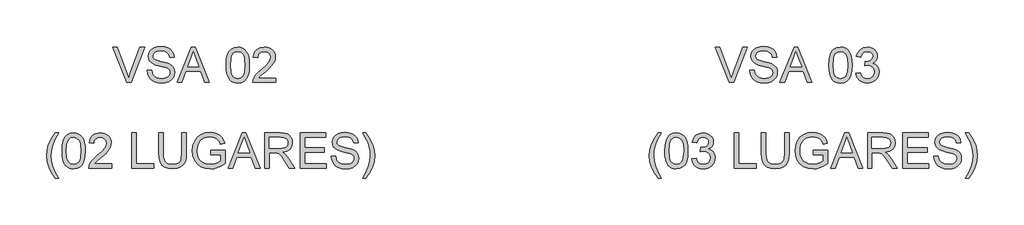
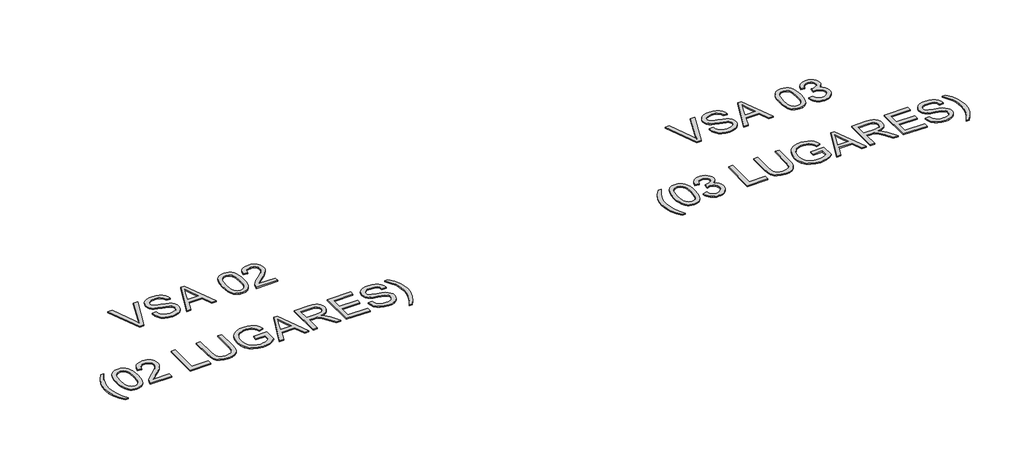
# One storey, part 2 of 4: 2 proxies.
"""IFC4 building model written with IfcOpenShell, lengths in millimetres."""

from ifc_helpers import new_model, si_unit, origin, origin_with_axes, place, context, project, spatial, polyline, outline, extrude, element, save

model = new_model("IFC4")

# Units and contexts
model_context = context("Model", 3, world=origin())
ifc_project = project(units=[si_unit("LENGTHUNIT", "METRE", prefix="MILLI")], contexts=[model_context])

# Site, building, storey
site = spatial("IfcSite", under=ifc_project)
building = spatial("IfcBuilding", under=site)
storey = spatial("IfcBuildingStorey", under=building, Name="Marelli - Linha VIGORE - Planta Baixa", Elevation=0.0)

# Proxies
placement = place(None, origin())
element("IfcBuildingElementProxy", 1, Name="300mm Arial", ObjectType="300mm Arial", at=placement, inside=storey, context=model_context, shape_type="SweptSolid", body=[
    extrude(outline(polyline([(-11531.7460813, 10085.3581335), (-11651.6756117, 10386.7270639), (-11611.3557451, 10386.7270639), (-11531.0838937, 10169.6031104), (-11514.8235095, 10120.674805), (-11498.7838545, 10169.6031104), (-11418.291274, 10386.7270639), (-11377.9714073, 10386.7270639), (-11492.8241662, 10085.3581335), (-11531.7460813, 10085.3581335)])), origin_with_axes(), (0.0, 0.0, 1.0), 10.0),
    extrude(outline(polyline([(-11357.07571, 10188.9537033), (-11319.4045937, 10188.9537033), (-11315.0819803, 10168.0488089), (-11307.2644879, 10151.2457988), (-11295.0691997, 10137.9100765), (-11277.613199, 10127.4070455), (-11256.2760433, 10120.5920316), (-11232.43729, 10118.3203602), (-11211.4496222, 10120.0402086), (-11193.0739166, 10125.1997535), (-11178.1838928, 10133.3667338), (-11167.6532707, 10144.1088881), (-11161.3900797, 10156.442132), (-11159.3023494, 10169.3823812), (-11160.8658479, 10181.9915366), (-11165.5563433, 10192.8900407), (-11175.084487, 10202.1882581), (-11191.1609302, 10209.9965534), (-11246.0121357, 10224.3807394), (-11282.0185859, 10233.8996861), (-11305.0571959, 10242.9587802), (-11323.8099806, 10255.6323149), (-11337.0997177, 10270.9913882), (-11345.0183776, 10288.7049063), (-11347.6579309, 10308.4417753), (-11344.3929782, 10330.505498), (-11334.5981201, 10351.0792986), (-11318.530874, 10368.5169052), (-11296.4487572, 10381.1720458), (-11269.9428594, 10388.8699765), (-11240.6042703, 10391.4359535), (-11208.819266, 10388.7504149), (-11181.0073871, 10380.6937992), (-11158.1619152, 10367.4316533), (-11141.2761316, 10349.129524), (-11130.5891597, 10326.9278456), (-11126.3401226, 10301.9670522), (-11164.0112389, 10301.9670522), (-11170.9274204, 10324.4446421), (-11185.3483947, 10340.6682381), (-11207.8811669, 10350.4906874), (-11239.1327424, 10353.7648371), (-11271.1200818, 10350.5274756), (-11293.0642428, 10340.8153909), (-11305.7561717, 10326.5231754), (-11309.9868146, 10309.5454213), (-11306.9885764, 10295.0692648), (-11297.9938616, 10283.4257997), (-11276.7302823, 10273.0147392), (-11236.483992, 10262.3829495), (-11194.9501147, 10252.2845888), (-11169.8237745, 10243.473815), (-11148.348663, 10229.8069989), (-11133.3666687, 10212.9396094), (-11124.565092, 10193.0555876), (-11121.6312331, 10170.3388744), (-11125.0065504, 10147.1163234), (-11135.1325023, 10125.2733299), (-11151.5952216, 10106.47456), (-11173.980841, 10092.3846796), (-11200.900606, 10083.5831028), (-11230.9657621, 10080.6492439), (-11267.8735232, 10083.8130291), (-11298.251379, 10093.3043846), (-11322.4488172, 10109.1600986), (-11340.8153258, 10131.4169593), (-11352.6059438, 10158.5298623), (-11357.07571, 10188.9537033)])), origin_with_axes(), (0.0, 0.0, 1.0), 10.0),
    extrude(outline(polyline([(-11100.220501, 10085.3581335), (-10979.9230886, 10386.7270639), (-10947.8437786, 10386.7270639), (-10827.5463661, 10085.3581335), (-10867.351198, 10085.3581335), (-10901.8585292, 10179.5359242), (-11025.9819143, 10179.5359242), (-11060.4156691, 10085.3581335), (-11100.220501, 10085.3581335)]), holes=[polyline([(-11012.1495513, 10217.2070405), (-10915.6173158, 10217.2070405), (-10942.767007, 10291.2984744), (-10963.8834336, 10349.0559476), (-10982.6454153, 10297.7731975), (-11012.1495513, 10217.2070405)])]), origin_with_axes(), (0.0, 0.0, 1.0), 10.0),
    extrude(outline(polyline([(-10683.704506, 10233.6145775), (-10680.936194, 10281.8531041), (-10672.631258, 10320.3243638), (-10658.8724714, 10349.6169677), (-10639.7426076, 10370.3195269), (-10615.103711, 10382.6251797), (-10584.8178257, 10386.7270639), (-10561.6044718, 10384.2990427), (-10540.8191391, 10377.0149792), (-10523.4367148, 10365.1599819), (-10510.4320863, 10349.0191594), (-10500.609637, 10328.7304674), (-10492.7737505, 10304.4318616), (-10487.6417967, 10273.5757592), (-10485.9311454, 10233.6145775), (-10488.6718663, 10185.6519624), (-10496.8940289, 10147.2726733), (-10510.5700421, 10117.9524782), (-10529.6723147, 10097.1671455), (-10554.3663936, 10084.7787193), (-10584.8178257, 10080.6492439), (-10605.5663703, 10082.4426687), (-10623.96047, 10087.8229428), (-10640.000125, 10096.7900665), (-10653.6853352, 10109.3440396), (-10666.8187225, 10132.0377601), (-10676.1997133, 10160.31409), (-10681.8283079, 10194.1730291), (-10683.704506, 10233.6145775)]), holes=[polyline([(-10646.0333897, 10233.6881539), (-10641.6188058, 10174.4315615), (-10636.1005759, 10154.1635629), (-10628.375054, 10140.1357625), (-10608.656579, 10123.7742108), (-10584.8178257, 10118.3203602), (-10560.9790724, 10123.7926049), (-10541.2605975, 10140.2093389), (-10533.5350756, 10154.2601319), (-10528.0168457, 10174.523532), (-10523.6022617, 10233.6881539), (-10527.8696929, 10291.6111741), (-10533.2039818, 10311.8124941), (-10540.6719863, 10326.1736875), (-10560.3536731, 10343.3353826), (-10585.2592841, 10349.0559476), (-10608.84052, 10344.0159643), (-10627.7864428, 10328.8960143), (-10635.7694821, 10313.2610295), (-10641.471653, 10292.1813912), (-10646.0333897, 10233.6881539)])]), origin_with_axes(), (0.0, 0.0, 1.0), 10.0),
    extrude(outline(polyline([(-10259.9044476, 10123.0292498), (-10259.9044476, 10085.3581335), (-10457.6778082, 10085.3581335), (-10453.6311063, 10111.3306023), (-10444.3420859, 10131.6284914), (-10430.7488462, 10151.3193752), (-10411.0855535, 10171.929964), (-10383.5863744, 10194.986968), (-10342.9354139, 10231.0945859), (-10318.5448376, 10257.7476364), (-10306.3495495, 10279.3790977), (-10302.2844534, 10300.4219478), (-10306.1196232, 10319.2850972), (-10317.6251326, 10334.9660672), (-10335.3110596, 10345.5334775), (-10357.6874819, 10349.0559476), (-10381.1859444, 10345.616251), (-10399.4420884, 10335.297161), (-10411.2235093, 10318.9080181), (-10415.2978024, 10297.2581627), (-10452.9689187, 10301.9670522), (-10443.8362481, 10338.4057639), (-10435.2898895, 10352.9417012), (-10424.090182, 10365.0220262), (-10410.4946431, 10374.5179802), (-10394.76079, 10381.3008045), (-10356.8781415, 10386.7270639), (-10336.6883178, 10385.2187477), (-10318.7195816, 10380.6937992), (-10302.9719329, 10373.1522183), (-10289.4453718, 10362.594005), (-10278.5813566, 10349.8009087), (-10270.8213458, 10335.5546784), (-10266.1653393, 10319.8553142), (-10264.6133371, 10302.7028162), (-10266.2872002, 10284.6857955), (-10271.3087894, 10266.9814745), (-10280.2207308, 10248.9736508), (-10293.5656502, 10230.0461222), (-10314.8384265, 10207.4489706), (-10347.5339388, 10178.4322782), (-10390.8704379, 10142.1959017), (-10407.8665861, 10123.0292498), (-10259.9044476, 10123.0292498)])), origin_with_axes(), (0.0, 0.0, 1.0), 10.0),
    extrude(outline(polyline([(-12138.7513734, 9268.7492147), (-12167.9428097, 9309.7128749), (-12192.2414155, 9357.1144699), (-12208.6305583, 9408.6547375), (-12214.093606, 9462.034415), (-12210.0101158, 9508.8473989), (-12197.7596454, 9553.6370318), (-12173.4426455, 9604.3679589), (-12138.7513734, 9654.8781568), (-12110.4980361, 9654.8781568), (-12145.7411313, 9595.2076972), (-12166.9311342, 9537.3766476), (-12174.0496508, 9499.6871372), (-12176.4224897, 9461.8136858), (-12172.3022113, 9413.5199769), (-12159.9413763, 9365.244662), (-12139.3399846, 9316.9877413), (-12110.4980361, 9268.7492147), (-12138.7513734, 9268.7492147)])), origin_with_axes(), (0.0, 0.0, 1.0), 10.0),
    extrude(outline(polyline([(-12082.2446989, 9501.7656705), (-12079.4763869, 9550.0041971), (-12071.1714508, 9588.4754567), (-12057.4126642, 9617.7680606), (-12038.2828005, 9638.4706199), (-12013.6439038, 9650.7762726), (-11983.3580186, 9654.8781568), (-11960.1446647, 9652.4501357), (-11939.359332, 9645.1660722), (-11921.9769077, 9633.3110749), (-11908.9722792, 9617.1702523), (-11899.1498299, 9596.8815603), (-11891.3139434, 9572.5829545), (-11886.1819896, 9541.7268522), (-11884.4713383, 9501.7656705), (-11887.2120592, 9453.8030553), (-11895.4342217, 9415.4237662), (-11909.1102349, 9386.1035712), (-11928.2125075, 9365.3182384), (-11952.9065864, 9352.9298123), (-11983.3580186, 9348.8003369), (-12004.1065631, 9350.5937616), (-12022.5006629, 9355.9740358), (-12038.5403179, 9364.9411594), (-12052.2255281, 9377.4951325), (-12065.3589153, 9400.1888531), (-12074.7399062, 9428.4651829), (-12080.3685007, 9462.324122), (-12082.2446989, 9501.7656705)]), holes=[polyline([(-12044.5735826, 9501.8392469), (-12040.1589987, 9442.5826545), (-12034.6407687, 9422.3146558), (-12026.9152468, 9408.2868555), (-12007.1967719, 9391.9253037), (-11983.3580186, 9386.4714532), (-11959.5192653, 9391.9436978), (-11939.8007904, 9408.3604319), (-11932.0752685, 9422.4112248), (-11926.5570385, 9442.674625), (-11922.1424546, 9501.8392469), (-11926.4098857, 9559.762267), (-11931.7441747, 9579.9635871), (-11939.2121792, 9594.3247804), (-11958.8938659, 9611.4864755), (-11983.799477, 9617.2070405), (-12007.3807129, 9612.1670572), (-12026.3266356, 9597.0471072), (-12034.3096749, 9581.4121224), (-12040.0118459, 9560.3324841), (-12044.5735826, 9501.8392469)])]), origin_with_axes(), (0.0, 0.0, 1.0), 10.0),
    extrude(outline(polyline([(-11658.4446405, 9391.1803427), (-11658.4446405, 9353.5092264), (-11856.2180011, 9353.5092264), (-11852.1712991, 9379.4816953), (-11842.8822787, 9399.7795843), (-11829.289039, 9419.4704681), (-11809.6257464, 9440.0810569), (-11782.1265672, 9463.138061), (-11741.4756068, 9499.2456788), (-11717.0850305, 9525.8987293), (-11704.8897423, 9547.5301907), (-11700.8246463, 9568.5730408), (-11704.6598161, 9587.4361901), (-11716.1653255, 9603.1171601), (-11733.8512524, 9613.6845704), (-11756.2276748, 9617.2070405), (-11779.7261372, 9613.7673439), (-11797.9822812, 9603.4482539), (-11809.7637021, 9587.059111), (-11813.8379952, 9565.4092556), (-11851.5091115, 9570.1181452), (-11842.376441, 9606.5568568), (-11833.8300824, 9621.0927941), (-11822.6303749, 9633.1731191), (-11809.0348359, 9642.6690731), (-11793.3009828, 9649.4518974), (-11755.4183344, 9654.8781568), (-11735.2285106, 9653.3698407), (-11717.2597744, 9648.8448921), (-11701.5121258, 9641.3033112), (-11687.9855647, 9630.745098), (-11677.1215495, 9617.9520016), (-11669.3615387, 9603.7057713), (-11664.7055322, 9588.0064072), (-11663.15353, 9570.8539091), (-11664.8273931, 9552.8368884), (-11669.8489823, 9535.1325674), (-11678.7609236, 9517.1247438), (-11692.105843, 9498.1972151), (-11713.3786194, 9475.6000635), (-11746.0741317, 9446.5833712), (-11789.4106307, 9410.3469947), (-11806.4067789, 9391.1803427), (-11658.4446405, 9391.1803427)])), origin_with_axes(), (0.0, 0.0, 1.0), 10.0),
    extrude(outline(polyline([(-11488.9246171, 9353.5092264), (-11488.9246171, 9654.8781568), (-11451.2535008, 9654.8781568), (-11451.2535008, 9391.1803427), (-11300.5690355, 9391.1803427), (-11300.5690355, 9353.5092264), (-11488.9246171, 9353.5092264)])), origin_with_axes(), (0.0, 0.0, 1.0), 10.0),
    extrude(outline(polyline([(-11060.4156691, 9654.8781568), (-11022.7445528, 9654.8781568), (-11022.7445528, 9481.0171259), (-11025.3013327, 9440.3017861), (-11032.9716723, 9408.9490431), (-11047.300676, 9384.7608019), (-11069.8334482, 9365.5389676), (-11100.6251712, 9352.9849946), (-11139.7310273, 9348.8003369), (-11177.9815577, 9352.4423686), (-11208.5617486, 9363.3684639), (-11231.4807969, 9381.2015436), (-11246.7478997, 9405.5645287), (-11255.3287472, 9438.2416469), (-11258.1890297, 9481.0171259), (-11258.1890297, 9654.8781568), (-11220.5179134, 9654.8781568), (-11220.5179134, 9482.3415011), (-11218.6601093, 9448.4871605), (-11213.0866971, 9424.9151217), (-11202.9883363, 9408.5903581), (-11187.5556866, 9396.4778434), (-11167.4325415, 9388.9730507), (-11143.2626944, 9386.4714532), (-11104.9477846, 9391.419466), (-11090.6049853, 9397.604482), (-11079.4719564, 9406.2635045), (-11071.1348307, 9418.4403985), (-11065.1797409, 9435.1790293), (-11060.4156691, 9482.3415011), (-11060.4156691, 9654.8781568)])), origin_with_axes(), (0.0, 0.0, 1.0), 10.0),
    extrude(outline(polyline([(-10815.5534131, 9471.2314649), (-10815.5534131, 9508.9025812), (-10693.1222851, 9508.9025812), (-10693.1222851, 9396.2571142), (-10722.8747415, 9375.563752), (-10753.5652969, 9360.7197135), (-10785.1203751, 9351.780181), (-10817.4663995, 9348.8003369), (-10859.7268437, 9353.5368175), (-10897.9221918, 9367.7462596), (-10929.6520139, 9390.9320224), (-10952.5158799, 9422.5974651), (-10966.3390459, 9460.5812811), (-10970.9467679, 9502.7221636), (-10966.35744, 9545.1665488), (-10952.5894563, 9584.649484), (-10930.213034, 9617.7680606), (-10899.79839, 9641.1193702), (-10862.7526731, 9654.9701273), (-10820.4830318, 9659.5870464), (-10789.4521855, 9656.9107049), (-10761.5483362, 9648.8816803), (-10738.0498738, 9636.0793869), (-10720.2351882, 9619.0832387), (-10707.0558157, 9597.0746984), (-10697.4632927, 9569.2352284), (-10732.191353, 9559.4495673), (-10739.944466, 9579.305998), (-10749.3714422, 9594.2879922), (-10761.8426418, 9605.5819695), (-10778.7284254, 9614.3743492), (-10798.8607676, 9620.0305349), (-10821.071643, 9621.9159301), (-10847.071703, 9619.8833821), (-10869.3009726, 9613.785738), (-10887.6766783, 9604.386353), (-10902.1160466, 9592.4485823), (-10921.5034277, 9563.4226928), (-10930.3325956, 9534.9854146), (-10933.2756516, 9504.267268), (-10929.7347874, 9468.2424236), (-10919.1121947, 9438.6003319), (-10901.7297705, 9415.5525249), (-10877.9094113, 9399.3105348), (-10850.0331531, 9389.6812236), (-10820.4830318, 9386.4714532), (-10794.3910013, 9388.8902773), (-10768.9427643, 9396.1467496), (-10746.8422535, 9406.1439429), (-10730.7934014, 9416.7849296), (-10730.7934014, 9471.2314649), (-10815.5534131, 9471.2314649)])), origin_with_axes(), (0.0, 0.0, 1.0), 10.0),
    extrude(outline(polyline([(-10667.0026635, 9353.5092264), (-10546.705251, 9654.8781568), (-10514.6259411, 9654.8781568), (-10394.3285286, 9353.5092264), (-10434.1333605, 9353.5092264), (-10468.6406917, 9447.6870172), (-10592.7640768, 9447.6870172), (-10627.1978316, 9353.5092264), (-10667.0026635, 9353.5092264)]), holes=[polyline([(-10578.9317138, 9485.3581335), (-10482.3994783, 9485.3581335), (-10509.5491695, 9559.4495673), (-10530.665596, 9617.2070405), (-10549.4275778, 9565.9242904), (-10578.9317138, 9485.3581335)])]), origin_with_axes(), (0.0, 0.0, 1.0), 10.0),
    extrude(outline(polyline([(-10354.0822384, 9353.5092264), (-10354.0822384, 9654.8781568), (-10224.2198941, 9654.8781568), (-10189.3170898, 9652.8456088), (-10163.9240351, 9646.7479648), (-10145.3643884, 9635.4907757), (-10130.9618083, 9617.9795927), (-10121.7187732, 9596.265358), (-10118.6377614, 9572.3990135), (-10123.7421241, 9542.7109365), (-10139.0552122, 9518.099631), (-10150.6549913, 9508.0702481), (-10165.0368781, 9500.0550192), (-10202.1469743, 9490.067023), (-10180.7362422, 9473.9537916), (-10150.2020366, 9435.1790293), (-10099.9493561, 9353.5092264), (-10143.7273135, 9353.5092264), (-10182.9435342, 9415.9755892), (-10211.2704478, 9457.3255254), (-10231.1728638, 9476.8600594), (-10249.0887169, 9484.0337583), (-10270.9409074, 9485.3581335), (-10316.4111221, 9485.3581335), (-10316.4111221, 9353.5092264), (-10354.0822384, 9353.5092264)]), holes=[polyline([(-10316.4111221, 9523.0292498), (-10232.0925688, 9523.0292498), (-10207.8767364, 9524.362822), (-10189.0871635, 9528.3635387), (-10174.9421008, 9535.2981143), (-10164.659799, 9545.4332633), (-10158.3966081, 9557.6929308), (-10156.3088778, 9571.0010619), (-10160.2912003, 9589.3767676), (-10172.2381681, 9604.1840179), (-10192.7935746, 9613.9512849), (-10222.6012133, 9617.2070405), (-10316.4111221, 9617.2070405), (-10316.4111221, 9523.0292498)])]), origin_with_axes(), (0.0, 0.0, 1.0), 10.0),
    extrude(outline(polyline([(-10052.7133079, 9353.5092264), (-10052.7133079, 9654.8781568), (-9836.1043891, 9654.8781568), (-9836.1043891, 9617.2070405), (-10015.0421916, 9617.2070405), (-10015.0421916, 9527.7381393), (-9845.5221682, 9527.7381393), (-9845.5221682, 9490.067023), (-10015.0421916, 9490.067023), (-10015.0421916, 9391.1803427), (-9831.3954996, 9391.1803427), (-9831.3954996, 9353.5092264), (-10052.7133079, 9353.5092264)])), origin_with_axes(), (0.0, 0.0, 1.0), 10.0),
    extrude(outline(polyline([(-9789.0154938, 9457.1047962), (-9751.3443775, 9457.1047962), (-9747.021764, 9436.1999019), (-9739.2042716, 9419.3968917), (-9727.0089835, 9406.0611694), (-9709.5529828, 9395.5581384), (-9688.2158271, 9388.7431245), (-9664.3770738, 9386.4714532), (-9643.389406, 9388.1913015), (-9625.0137003, 9393.3508465), (-9610.1236766, 9401.5178268), (-9599.5930544, 9412.259981), (-9593.3298635, 9424.5932249), (-9591.2421332, 9437.5334741), (-9592.8056316, 9450.1426295), (-9597.4961271, 9461.0411336), (-9607.0242708, 9470.339351), (-9623.1007139, 9478.1476464), (-9677.9519194, 9492.5318324), (-9713.9583697, 9502.050779), (-9736.9969796, 9511.1098731), (-9755.7497644, 9523.7834079), (-9769.0395014, 9539.1424812), (-9776.9581614, 9556.8559992), (-9779.5977147, 9576.5928683), (-9776.332762, 9598.6565909), (-9766.5379039, 9619.2303915), (-9750.4706577, 9636.6679981), (-9728.388541, 9649.3231387), (-9701.8826432, 9657.0210695), (-9672.5440541, 9659.5870464), (-9640.7590497, 9656.9015078), (-9612.9471709, 9648.8448921), (-9590.101699, 9635.5827462), (-9573.2159154, 9617.2806169), (-9562.5289434, 9595.0789385), (-9558.2799064, 9570.1181452), (-9595.9510227, 9570.1181452), (-9602.8672042, 9592.5957351), (-9617.2881784, 9608.819331), (-9639.8209506, 9618.6417803), (-9671.0725261, 9621.9159301), (-9703.0598656, 9618.6785685), (-9725.0040266, 9608.9664838), (-9737.6959554, 9594.6742683), (-9741.9265984, 9577.6965143), (-9738.9283601, 9563.2203577), (-9729.9336453, 9551.5768926), (-9708.670066, 9541.1658321), (-9668.4237757, 9530.5340425), (-9626.8898985, 9520.4356817), (-9601.7635582, 9511.6249079), (-9580.2884468, 9497.9580918), (-9565.3064525, 9481.0907023), (-9556.5048758, 9461.2066805), (-9553.5710169, 9438.4899673), (-9556.9463342, 9415.2674163), (-9567.0722861, 9393.4244229), (-9583.5350054, 9374.6256529), (-9605.9206248, 9360.5357725), (-9632.8403898, 9351.7341958), (-9662.9055458, 9348.8003369), (-9699.813307, 9351.964122), (-9730.1911627, 9361.4554775), (-9754.388601, 9377.3111915), (-9772.7551096, 9399.5680522), (-9784.5457275, 9426.6809552), (-9789.0154938, 9457.1047962)])), origin_with_axes(), (0.0, 0.0, 1.0), 10.0),
    extrude(outline(polyline([(-9492.3554529, 9268.7492147), (-9520.6087901, 9268.7492147), (-9491.7668417, 9316.9877413), (-9471.1654499, 9365.244662), (-9458.8046149, 9413.5199769), (-9454.6843365, 9461.8136858), (-9457.0571754, 9499.4112257), (-9464.175692, 9536.71446), (-9473.1704068, 9566.2737783), (-9485.1449657, 9594.619086), (-9520.6087901, 9654.8781568), (-9492.3554529, 9654.8781568), (-9457.6641807, 9604.3679589), (-9433.3471808, 9553.6370318), (-9421.0967104, 9508.8473989), (-9417.0132202, 9462.034415), (-9422.503859, 9408.6547375), (-9438.9757754, 9357.1144699), (-9463.3019723, 9309.7128749), (-9492.3554529, 9268.7492147)])), origin_with_axes(), (0.0, 0.0, 1.0), 10.0),
])
element("IfcBuildingElementProxy", 2, Name="300mm Arial", ObjectType="300mm Arial", at=placement, inside=storey, context=model_context, shape_type="SweptSolid", body=[
    extrude(outline(polyline([(-6395.1882847, 10085.3581335), (-6515.1178151, 10386.7270639), (-6474.7979485, 10386.7270639), (-6394.5260971, 10169.6031104), (-6378.2657129, 10120.674805), (-6362.2260579, 10169.6031104), (-6281.7334774, 10386.7270639), (-6241.4136107, 10386.7270639), (-6356.2663696, 10085.3581335), (-6395.1882847, 10085.3581335)])), origin_with_axes(), (0.0, 0.0, 1.0), 10.0),
    extrude(outline(polyline([(-6220.5179134, 10188.9537033), (-6182.8467971, 10188.9537033), (-6178.5241836, 10168.0488089), (-6170.7066913, 10151.2457988), (-6158.5114031, 10137.9100765), (-6141.0554024, 10127.4070455), (-6119.7182467, 10120.5920316), (-6095.8794934, 10118.3203602), (-6074.8918256, 10120.0402086), (-6056.5161199, 10125.1997535), (-6041.6260962, 10133.3667338), (-6031.0954741, 10144.1088881), (-6024.8322831, 10156.442132), (-6022.7445528, 10169.3823812), (-6024.3080513, 10181.9915366), (-6028.9985467, 10192.8900407), (-6038.5266904, 10202.1882581), (-6054.6031336, 10209.9965534), (-6109.4543391, 10224.3807394), (-6145.4607893, 10233.8996861), (-6168.4993993, 10242.9587802), (-6187.252184, 10255.6323149), (-6200.5419211, 10270.9913882), (-6208.460581, 10288.7049063), (-6211.1001343, 10308.4417753), (-6207.8351816, 10330.505498), (-6198.0403235, 10351.0792986), (-6181.9730774, 10368.5169052), (-6159.8909606, 10381.1720458), (-6133.3850628, 10388.8699765), (-6104.0464737, 10391.4359535), (-6072.2614693, 10388.7504149), (-6044.4495905, 10380.6937992), (-6021.6041186, 10367.4316533), (-6004.718335, 10349.129524), (-5994.0313631, 10326.9278456), (-5989.782326, 10301.9670522), (-6027.4534423, 10301.9670522), (-6034.3696238, 10324.4446421), (-6048.790598, 10340.6682381), (-6071.3233703, 10350.4906874), (-6102.5749457, 10353.7648371), (-6134.5622852, 10350.5274756), (-6156.5064462, 10340.8153909), (-6169.1983751, 10326.5231754), (-6173.429018, 10309.5454213), (-6170.4307798, 10295.0692648), (-6161.436065, 10283.4257997), (-6140.1724857, 10273.0147392), (-6099.9261954, 10262.3829495), (-6058.3923181, 10252.2845888), (-6033.2659779, 10243.473815), (-6011.7908664, 10229.8069989), (-5996.8088721, 10212.9396094), (-5988.0072954, 10193.0555876), (-5985.0734365, 10170.3388744), (-5988.4487538, 10147.1163234), (-5998.5747057, 10125.2733299), (-6015.037425, 10106.47456), (-6037.4230444, 10092.3846796), (-6064.3428094, 10083.5831028), (-6094.4079655, 10080.6492439), (-6131.3157266, 10083.8130291), (-6161.6935824, 10093.3043846), (-6185.8910206, 10109.1600986), (-6204.2575292, 10131.4169593), (-6216.0481472, 10158.5298623), (-6220.5179134, 10188.9537033)])), origin_with_axes(), (0.0, 0.0, 1.0), 10.0),
    extrude(outline(polyline([(-5963.6627044, 10085.3581335), (-5843.3652919, 10386.7270639), (-5811.285982, 10386.7270639), (-5690.9885695, 10085.3581335), (-5730.7934014, 10085.3581335), (-5765.3007326, 10179.5359242), (-5889.4241177, 10179.5359242), (-5923.8578725, 10085.3581335), (-5963.6627044, 10085.3581335)]), holes=[polyline([(-5875.5917547, 10217.2070405), (-5779.0595192, 10217.2070405), (-5806.2092104, 10291.2984744), (-5827.325637, 10349.0559476), (-5846.0876187, 10297.7731975), (-5875.5917547, 10217.2070405)])]), origin_with_axes(), (0.0, 0.0, 1.0), 10.0),
    extrude(outline(polyline([(-5547.1467094, 10233.6145775), (-5544.3783974, 10281.8531041), (-5536.0734614, 10320.3243638), (-5522.3146748, 10349.6169677), (-5503.184811, 10370.3195269), (-5478.5459144, 10382.6251797), (-5448.2600291, 10386.7270639), (-5425.0466752, 10384.2990427), (-5404.2613425, 10377.0149792), (-5386.8789182, 10365.1599819), (-5373.8742897, 10349.0191594), (-5364.0518404, 10328.7304674), (-5356.2159539, 10304.4318616), (-5351.0840001, 10273.5757592), (-5349.3733488, 10233.6145775), (-5352.1140697, 10185.6519624), (-5360.3362323, 10147.2726733), (-5374.0122454, 10117.9524782), (-5393.114518, 10097.1671455), (-5417.808597, 10084.7787193), (-5448.2600291, 10080.6492439), (-5469.0085737, 10082.4426687), (-5487.4026734, 10087.8229428), (-5503.4423284, 10096.7900665), (-5517.1275386, 10109.3440396), (-5530.2609258, 10132.0377601), (-5539.6419167, 10160.31409), (-5545.2705113, 10194.1730291), (-5547.1467094, 10233.6145775)]), holes=[polyline([(-5509.4755931, 10233.6881539), (-5505.0610092, 10174.4315615), (-5499.5427793, 10154.1635629), (-5491.8172574, 10140.1357625), (-5472.0987824, 10123.7742108), (-5448.2600291, 10118.3203602), (-5424.4212758, 10123.7926049), (-5404.7028009, 10140.2093389), (-5396.977279, 10154.2601319), (-5391.4590491, 10174.523532), (-5387.0444651, 10233.6881539), (-5391.3118963, 10291.6111741), (-5396.6461852, 10311.8124941), (-5404.1141897, 10326.1736875), (-5423.7958764, 10343.3353826), (-5448.7014875, 10349.0559476), (-5472.2827234, 10344.0159643), (-5491.2286462, 10328.8960143), (-5499.2116855, 10313.2610295), (-5504.9138564, 10292.1813912), (-5509.4755931, 10233.6881539)])]), origin_with_axes(), (0.0, 0.0, 1.0), 10.0),
    extrude(outline(polyline([(-5316.4111221, 10165.4092556), (-5278.7400057, 10170.1181452), (-5270.306311, 10146.4449388), (-5257.954673, 10130.4604661), (-5241.0780865, 10121.3553867), (-5219.0695461, 10118.3203602), (-5193.2442301, 10122.4958209), (-5173.3050259, 10135.0222028), (-5160.5579148, 10153.7106082), (-5156.3088778, 10176.3721391), (-5160.5211266, 10197.8840387), (-5173.1578731, 10215.3308424), (-5192.2877369, 10226.8915341), (-5215.9793374, 10230.745098), (-5242.3932646, 10226.6248196), (-5238.1994099, 10264.2959359), (-5232.1661452, 10263.8544775), (-5209.5965848, 10266.5584102), (-5189.4182573, 10274.6702082), (-5175.1812241, 10288.3922066), (-5170.4355464, 10307.9267405), (-5173.875243, 10324.1963218), (-5184.194333, 10337.3940884), (-5199.9396824, 10346.1404828), (-5219.6581573, 10349.0559476), (-5239.4134205, 10346.1128916), (-5255.56344, 10337.2837238), (-5267.354058, 10322.568444), (-5274.0311162, 10301.9670522), (-5311.7022325, 10306.6759418), (-5300.6105904, 10340.5026912), (-5280.8737213, 10365.7577902), (-5253.8711829, 10381.4847455), (-5220.9825325, 10386.7270639), (-5197.3001291, 10384.1426929), (-5175.5491061, 10376.3895799), (-5157.2101886, 10364.1575035), (-5143.7641017, 10348.1362426), (-5135.514348, 10329.6777635), (-5132.7644301, 10310.1340325), (-5135.3763922, 10291.9238738), (-5143.2122787, 10275.4059722), (-5156.161725, 10261.3344859), (-5174.1143663, 10250.4635729), (-5150.5331304, 10240.9354292), (-5133.0587357, 10224.7118332), (-5122.243005, 10202.6757017), (-5118.6377614, 10175.7099515), (-5120.4403832, 10156.5984818), (-5125.8482485, 10138.9953284), (-5134.8613574, 10122.9004911), (-5147.4797099, 10108.31397), (-5162.8525787, 10096.2106523), (-5180.1292369, 10087.5654254), (-5199.3096845, 10082.3782893), (-5220.3939213, 10080.6492439), (-5239.4502087, 10082.1253704), (-5256.8142388, 10086.55375), (-5272.4860118, 10093.9343825), (-5286.4655276, 10104.267268), (-5298.1871677, 10116.9454013), (-5307.0853135, 10131.361777), (-5313.1599649, 10147.5163951), (-5316.4111221, 10165.4092556)])), origin_with_axes(), (0.0, 0.0, 1.0), 10.0),
    extrude(outline(polyline([(-7002.1935767, 9268.7492147), (-7031.3850131, 9309.7128749), (-7055.6836188, 9357.1144699), (-7072.0727617, 9408.6547375), (-7077.5358094, 9462.034415), (-7073.4523192, 9508.8473989), (-7061.2018488, 9553.6370318), (-7036.8848489, 9604.3679589), (-7002.1935767, 9654.8781568), (-6973.9402395, 9654.8781568), (-7009.1833347, 9595.2076972), (-7030.3733376, 9537.3766476), (-7037.4918542, 9499.6871372), (-7039.8646931, 9461.8136858), (-7035.7444147, 9413.5199769), (-7023.3835797, 9365.244662), (-7002.7821879, 9316.9877413), (-6973.9402395, 9268.7492147), (-7002.1935767, 9268.7492147)])), origin_with_axes(), (0.0, 0.0, 1.0), 10.0),
    extrude(outline(polyline([(-6945.6869023, 9501.7656705), (-6942.9185903, 9550.0041971), (-6934.6136542, 9588.4754567), (-6920.8548676, 9617.7680606), (-6901.7250039, 9638.4706199), (-6877.0861072, 9650.7762726), (-6846.800222, 9654.8781568), (-6823.5868681, 9652.4501357), (-6802.8015354, 9645.1660722), (-6785.4191111, 9633.3110749), (-6772.4144826, 9617.1702523), (-6762.5920333, 9596.8815603), (-6754.7561468, 9572.5829545), (-6749.624193, 9541.7268522), (-6747.9135417, 9501.7656705), (-6750.6542625, 9453.8030553), (-6758.8764251, 9415.4237662), (-6772.5524383, 9386.1035712), (-6791.6547109, 9365.3182384), (-6816.3487898, 9352.9298123), (-6846.800222, 9348.8003369), (-6867.5487665, 9350.5937616), (-6885.9428663, 9355.9740358), (-6901.9825213, 9364.9411594), (-6915.6677315, 9377.4951325), (-6928.8011187, 9400.1888531), (-6938.1821096, 9428.4651829), (-6943.8107041, 9462.324122), (-6945.6869023, 9501.7656705)]), holes=[polyline([(-6908.015786, 9501.8392469), (-6903.601202, 9442.5826545), (-6898.0829721, 9422.3146558), (-6890.3574502, 9408.2868555), (-6870.6389753, 9391.9253037), (-6846.800222, 9386.4714532), (-6822.9614687, 9391.9436978), (-6803.2429938, 9408.3604319), (-6795.5174719, 9422.4112248), (-6789.9992419, 9442.674625), (-6785.584658, 9501.8392469), (-6789.8520891, 9559.762267), (-6795.1863781, 9579.9635871), (-6802.6543826, 9594.3247804), (-6822.3360693, 9611.4864755), (-6847.2416804, 9617.2070405), (-6870.8229163, 9612.1670572), (-6889.768839, 9597.0471072), (-6897.7518783, 9581.4121224), (-6903.4540492, 9560.3324841), (-6908.015786, 9501.8392469)])]), origin_with_axes(), (0.0, 0.0, 1.0), 10.0),
    extrude(outline(polyline([(-6714.9513149, 9433.5603485), (-6677.2801986, 9438.2692381), (-6668.8465039, 9414.5960317), (-6656.4948659, 9398.611559), (-6639.6182794, 9389.5064796), (-6617.609739, 9386.4714532), (-6591.7844229, 9390.6469138), (-6571.8452188, 9403.1732957), (-6559.0981077, 9421.8617011), (-6554.8490706, 9444.523232), (-6559.0613195, 9466.0351317), (-6571.698066, 9483.4819353), (-6590.8279297, 9495.042627), (-6614.5195302, 9498.8961909), (-6640.9334575, 9494.7759125), (-6636.7396027, 9532.4470289), (-6630.706338, 9532.0055705), (-6608.1367776, 9534.7095031), (-6587.9584502, 9542.8213011), (-6573.721417, 9556.5432995), (-6568.9757392, 9576.0778335), (-6572.4154359, 9592.3474147), (-6582.7345258, 9605.5451813), (-6598.4798752, 9614.2915757), (-6618.1983502, 9617.2070405), (-6637.9536133, 9614.2639846), (-6654.1036329, 9605.4348167), (-6665.8942509, 9590.7195369), (-6672.5713091, 9570.1181452), (-6710.2424254, 9574.8270347), (-6699.1507832, 9608.6537842), (-6679.4139142, 9633.9088831), (-6652.4113757, 9649.6358384), (-6619.5227254, 9654.8781568), (-6595.8403219, 9652.2937858), (-6574.089299, 9644.5406728), (-6555.7503815, 9632.3085964), (-6542.3042946, 9616.2873356), (-6534.0545408, 9597.8288564), (-6531.3046229, 9578.2851254), (-6533.9165851, 9560.0749667), (-6541.7524716, 9543.5570651), (-6554.7019178, 9529.4855788), (-6572.6545592, 9518.6146658), (-6549.0733233, 9509.0865222), (-6531.5989285, 9492.8629262), (-6520.7831979, 9470.8267947), (-6517.1779543, 9443.8610444), (-6518.9805761, 9424.7495748), (-6524.3884414, 9407.1464213), (-6533.4015503, 9391.051584), (-6546.0199027, 9376.4650629), (-6561.3927716, 9364.3617453), (-6578.6694298, 9355.7165184), (-6597.8498773, 9350.5293822), (-6618.9341142, 9348.8003369), (-6637.9904015, 9350.2764634), (-6655.3544317, 9354.7048429), (-6671.0262047, 9362.0854754), (-6685.0057205, 9372.4183609), (-6696.7273606, 9385.0964942), (-6705.6255063, 9399.5128699), (-6711.7001578, 9415.667488), (-6714.9513149, 9433.5603485)])), origin_with_axes(), (0.0, 0.0, 1.0), 10.0),
    extrude(outline(polyline([(-6352.3668205, 9353.5092264), (-6352.3668205, 9654.8781568), (-6314.6957042, 9654.8781568), (-6314.6957042, 9391.1803427), (-6164.0112389, 9391.1803427), (-6164.0112389, 9353.5092264), (-6352.3668205, 9353.5092264)])), origin_with_axes(), (0.0, 0.0, 1.0), 10.0),
    extrude(outline(polyline([(-5923.8578725, 9654.8781568), (-5886.1867562, 9654.8781568), (-5886.1867562, 9481.0171259), (-5888.743536, 9440.3017861), (-5896.4138756, 9408.9490431), (-5910.7428794, 9384.7608019), (-5933.2756516, 9365.5389676), (-5964.0673746, 9352.9849946), (-6003.1732306, 9348.8003369), (-6041.4237611, 9352.4423686), (-6072.0039519, 9363.3684639), (-6094.9230002, 9381.2015436), (-6110.190103, 9405.5645287), (-6118.7709506, 9438.2416469), (-6121.6312331, 9481.0171259), (-6121.6312331, 9654.8781568), (-6083.9601168, 9654.8781568), (-6083.9601168, 9482.3415011), (-6082.1023127, 9448.4871605), (-6076.5289005, 9424.9151217), (-6066.4305397, 9408.5903581), (-6050.99789, 9396.4778434), (-6030.8747449, 9388.9730507), (-6006.7048978, 9386.4714532), (-5968.389988, 9391.419466), (-5954.0471887, 9397.604482), (-5942.9141598, 9406.2635045), (-5934.5770341, 9418.4403985), (-5928.6219443, 9435.1790293), (-5923.8578725, 9482.3415011), (-5923.8578725, 9654.8781568)])), origin_with_axes(), (0.0, 0.0, 1.0), 10.0),
    extrude(outline(polyline([(-5678.9956165, 9471.2314649), (-5678.9956165, 9508.9025812), (-5556.5644885, 9508.9025812), (-5556.5644885, 9396.2571142), (-5586.3169449, 9375.563752), (-5617.0075003, 9360.7197135), (-5648.5625784, 9351.780181), (-5680.9086029, 9348.8003369), (-5723.1690471, 9353.5368175), (-5761.3643952, 9367.7462596), (-5793.0942173, 9390.9320224), (-5815.9580833, 9422.5974651), (-5829.7812493, 9460.5812811), (-5834.3889713, 9502.7221636), (-5829.7996434, 9545.1665488), (-5816.0316597, 9584.649484), (-5793.6552373, 9617.7680606), (-5763.2405934, 9641.1193702), (-5726.1948765, 9654.9701273), (-5683.9252352, 9659.5870464), (-5652.8943889, 9656.9107049), (-5624.9905396, 9648.8816803), (-5601.4920772, 9636.0793869), (-5583.6773915, 9619.0832387), (-5570.4980191, 9597.0746984), (-5560.905496, 9569.2352284), (-5595.6335564, 9559.4495673), (-5603.3866694, 9579.305998), (-5612.8136456, 9594.2879922), (-5625.2848452, 9605.5819695), (-5642.1706288, 9614.3743492), (-5662.302971, 9620.0305349), (-5684.5138464, 9621.9159301), (-5710.5139064, 9619.8833821), (-5732.743176, 9613.785738), (-5751.1188817, 9604.386353), (-5765.55825, 9592.4485823), (-5784.9456311, 9563.4226928), (-5793.774799, 9534.9854146), (-5796.717855, 9504.267268), (-5793.1769908, 9468.2424236), (-5782.5543981, 9438.6003319), (-5765.1719739, 9415.5525249), (-5741.3516147, 9399.3105348), (-5713.4753565, 9389.6812236), (-5683.9252352, 9386.4714532), (-5657.8332047, 9388.8902773), (-5632.3849677, 9396.1467496), (-5610.2844568, 9406.1439429), (-5594.2356048, 9416.7849296), (-5594.2356048, 9471.2314649), (-5678.9956165, 9471.2314649)])), origin_with_axes(), (0.0, 0.0, 1.0), 10.0),
    extrude(outline(polyline([(-5530.4448668, 9353.5092264), (-5410.1474544, 9654.8781568), (-5378.0681444, 9654.8781568), (-5257.770732, 9353.5092264), (-5297.5755639, 9353.5092264), (-5332.082895, 9447.6870172), (-5456.2062802, 9447.6870172), (-5490.640035, 9353.5092264), (-5530.4448668, 9353.5092264)]), holes=[polyline([(-5442.3739172, 9485.3581335), (-5345.8416817, 9485.3581335), (-5372.9913729, 9559.4495673), (-5394.1077994, 9617.2070405), (-5412.8697812, 9565.9242904), (-5442.3739172, 9485.3581335)])]), origin_with_axes(), (0.0, 0.0, 1.0), 10.0),
    extrude(outline(polyline([(-5217.5244417, 9353.5092264), (-5217.5244417, 9654.8781568), (-5087.6620975, 9654.8781568), (-5052.7592932, 9652.8456088), (-5027.3662384, 9646.7479648), (-5008.8065918, 9635.4907757), (-4994.4040117, 9617.9795927), (-4985.1609765, 9596.265358), (-4982.0799648, 9572.3990135), (-4987.1843275, 9542.7109365), (-5002.4974156, 9518.099631), (-5014.0971947, 9508.0702481), (-5028.4790815, 9500.0550192), (-5065.5891777, 9490.067023), (-5044.1784456, 9473.9537916), (-5013.64424, 9435.1790293), (-4963.3915595, 9353.5092264), (-5007.1695169, 9353.5092264), (-5046.3857376, 9415.9755892), (-5074.7126512, 9457.3255254), (-5094.6150672, 9476.8600594), (-5112.5309203, 9484.0337583), (-5134.3831108, 9485.3581335), (-5179.8533254, 9485.3581335), (-5179.8533254, 9353.5092264), (-5217.5244417, 9353.5092264)]), holes=[polyline([(-5179.8533254, 9523.0292498), (-5095.5347721, 9523.0292498), (-5071.3189398, 9524.362822), (-5052.5293669, 9528.3635387), (-5038.3843042, 9535.2981143), (-5028.1020024, 9545.4332633), (-5021.8388115, 9557.6929308), (-5019.7510811, 9571.0010619), (-5023.7334037, 9589.3767676), (-5035.6803715, 9604.1840179), (-5056.235778, 9613.9512849), (-5086.0434167, 9617.2070405), (-5179.8533254, 9617.2070405), (-5179.8533254, 9523.0292498)])]), origin_with_axes(), (0.0, 0.0, 1.0), 10.0),
    extrude(outline(polyline([(-4916.1555113, 9353.5092264), (-4916.1555113, 9654.8781568), (-4699.5465925, 9654.8781568), (-4699.5465925, 9617.2070405), (-4878.484395, 9617.2070405), (-4878.484395, 9527.7381393), (-4708.9643716, 9527.7381393), (-4708.9643716, 9490.067023), (-4878.484395, 9490.067023), (-4878.484395, 9391.1803427), (-4694.837703, 9391.1803427), (-4694.837703, 9353.5092264), (-4916.1555113, 9353.5092264)])), origin_with_axes(), (0.0, 0.0, 1.0), 10.0),
    extrude(outline(polyline([(-4652.4576972, 9457.1047962), (-4614.7865809, 9457.1047962), (-4610.4639674, 9436.1999019), (-4602.646475, 9419.3968917), (-4590.4511869, 9406.0611694), (-4572.9951862, 9395.5581384), (-4551.6580305, 9388.7431245), (-4527.8192772, 9386.4714532), (-4506.8316094, 9388.1913015), (-4488.4559037, 9393.3508465), (-4473.56588, 9401.5178268), (-4463.0352578, 9412.259981), (-4456.7720669, 9424.5932249), (-4454.6843365, 9437.5334741), (-4456.247835, 9450.1426295), (-4460.9383305, 9461.0411336), (-4470.4664741, 9470.339351), (-4486.5429173, 9478.1476464), (-4541.3941228, 9492.5318324), (-4577.4005731, 9502.050779), (-4600.439183, 9511.1098731), (-4619.1919677, 9523.7834079), (-4632.4817048, 9539.1424812), (-4640.4003648, 9556.8559992), (-4643.0399181, 9576.5928683), (-4639.7749654, 9598.6565909), (-4629.9801073, 9619.2303915), (-4613.9128611, 9636.6679981), (-4591.8307444, 9649.3231387), (-4565.3248466, 9657.0210695), (-4535.9862575, 9659.5870464), (-4504.2012531, 9656.9015078), (-4476.3893743, 9648.8448921), (-4453.5439024, 9635.5827462), (-4436.6581188, 9617.2806169), (-4425.9711468, 9595.0789385), (-4421.7221098, 9570.1181452), (-4459.3932261, 9570.1181452), (-4466.3094076, 9592.5957351), (-4480.7303818, 9608.819331), (-4503.263154, 9618.6417803), (-4534.5147295, 9621.9159301), (-4566.502069, 9618.6785685), (-4588.44623, 9608.9664838), (-4601.1381588, 9594.6742683), (-4605.3688018, 9577.6965143), (-4602.3705635, 9563.2203577), (-4593.3758487, 9551.5768926), (-4572.1122694, 9541.1658321), (-4531.8659791, 9530.5340425), (-4490.3321019, 9520.4356817), (-4465.2057616, 9511.6249079), (-4443.7306501, 9497.9580918), (-4428.7486559, 9481.0907023), (-4419.9470792, 9461.2066805), (-4417.0132202, 9438.4899673), (-4420.3885375, 9415.2674163), (-4430.5144895, 9393.4244229), (-4446.9772088, 9374.6256529), (-4469.3628282, 9360.5357725), (-4496.2825932, 9351.7341958), (-4526.3477492, 9348.8003369), (-4563.2555104, 9351.964122), (-4593.6333661, 9361.4554775), (-4617.8308044, 9377.3111915), (-4636.197313, 9399.5680522), (-4647.9879309, 9426.6809552), (-4652.4576972, 9457.1047962)])), origin_with_axes(), (0.0, 0.0, 1.0), 10.0),
    extrude(outline(polyline([(-4355.7976562, 9268.7492147), (-4384.0509935, 9268.7492147), (-4355.2090451, 9316.9877413), (-4334.6076533, 9365.244662), (-4322.2468183, 9413.5199769), (-4318.1265399, 9461.8136858), (-4320.4993788, 9499.4112257), (-4327.6178954, 9536.71446), (-4336.6126102, 9566.2737783), (-4348.5871691, 9594.619086), (-4384.0509935, 9654.8781568), (-4355.7976562, 9654.8781568), (-4321.1063841, 9604.3679589), (-4296.7893842, 9553.6370318), (-4284.5389138, 9508.8473989), (-4280.4554236, 9462.034415), (-4285.9460624, 9408.6547375), (-4302.4179787, 9357.1144699), (-4326.7441757, 9309.7128749), (-4355.7976562, 9268.7492147)])), origin_with_axes(), (0.0, 0.0, 1.0), 10.0),
])

save(model, "model.ifc")
